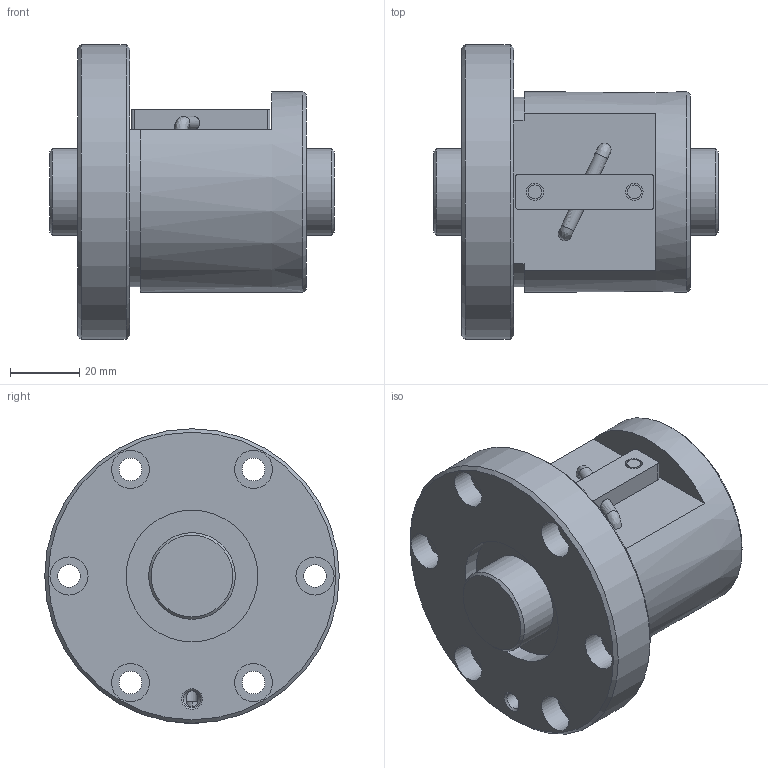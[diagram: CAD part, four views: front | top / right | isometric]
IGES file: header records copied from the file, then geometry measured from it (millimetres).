
Start section: Data from Parasolid IGES Translator 26.0.171, Copyright(c) 2006 Siemens PLM Software. All Rights Reserved.
Global section: file name: BNF2508V-3.5RRG1+82LC0_000_rev.igs; native system: By Siemens PLM Incorporated; preprocessor: XPlus GENERIC/IGES 26.0.171; author: Noname; organization: Noname; date: 20240806.072935; units: millimetre
Bounding box: 82 x 85 x 85 mm (x, y, z)
Surface area: 40247.8 mm2 (no closed solid volume)
Topology: 0 solids, 0 shells, 71 faces, 328 edges, 296 vertices
Faces by surface type: revolution 44, extrusion 27
